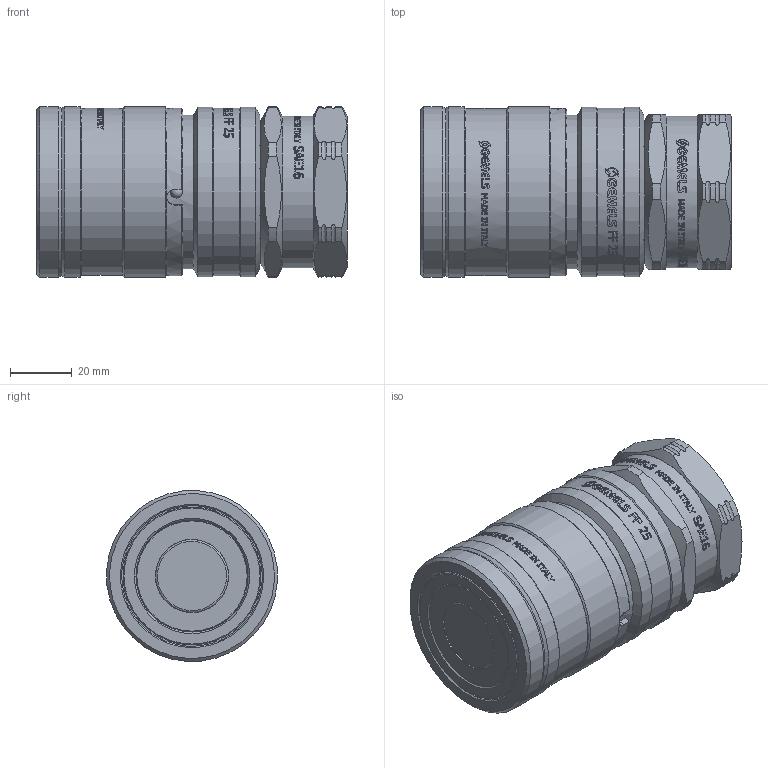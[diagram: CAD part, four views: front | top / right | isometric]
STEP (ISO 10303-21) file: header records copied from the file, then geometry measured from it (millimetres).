
FILE_DESCRIPTION(/* description */ (''),/* implementation_level */ '2;1');
FILE_NAME(/* name */ 'NC06S050002.stp',/* time_stamp */ '2024-11-22T15:12:43+01:00',/* author */ ('thomas.belotti'),/* organization */ (''),/* preprocessor_version */ 'ST-DEVELOPER v20',/* originating_system */ 'Autodesk Inventor 2024',/* authorisation */ '');
FILE_SCHEMA (('AUTOMOTIVE_DESIGN { 1 0 10303 214 3 1 1 }'));
Products named in the file (1): Parte13
Bounding box: 100.26 x 55.09 x 55.09 mm (x, y, z)
Volume: 203006.9 mm3; surface area: 28270.2 mm2
Topology: 1 solids, 3 shells, 1675 faces, 4754 edges, 3161 vertices
Faces by surface type: bspline 1066, plane 432, cylinder 130, cone 27, torus 16, sphere 4
Full cylindrical faces by diameter (mm): 3.9 x4, 23.55 x1, 23.6 x1, 31.26 x1, 31.5 x1, 36 x1, 36.2 x1, 44.5 x1, 45.4 x1, 46 x1, 46.3 x1, 49 x1, 49.5 x1, 49.7 x1, 54 x2, 54.7 x2, 55.2 x3
Entity records: 72524 total; most frequent: CARTESIAN_POINT 34322, ORIENTED_EDGE 9508, EDGE_CURVE 4754, DIRECTION 4302, VERTEX_POINT 3160, B_SPLINE_CURVE_WITH_KNOTS 2253, LINE 1864, VECTOR 1864
